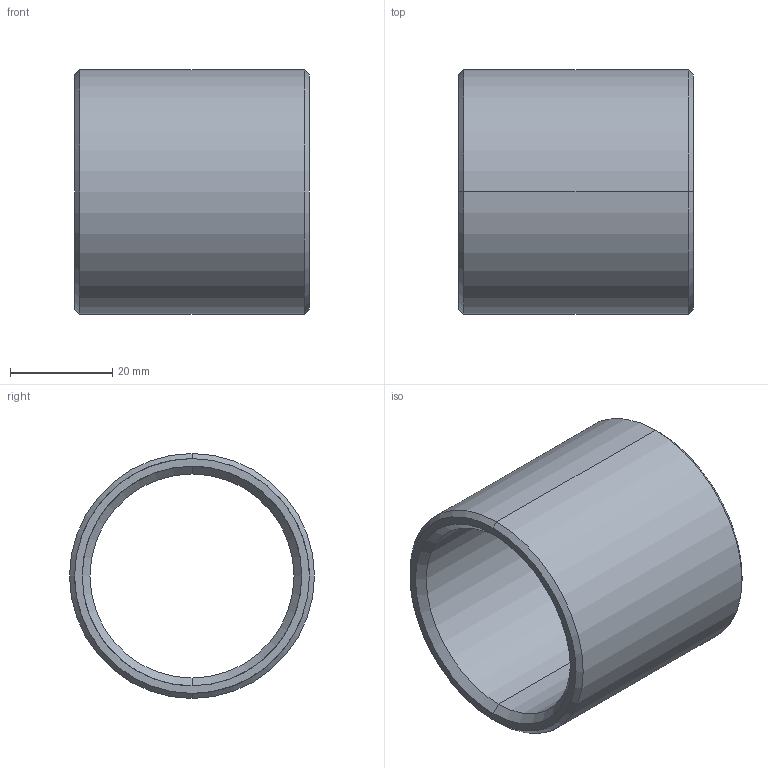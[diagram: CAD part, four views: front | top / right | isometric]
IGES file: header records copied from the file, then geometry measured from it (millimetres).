
Start section: START RECORD GO HERE.
Global section: file name: 352-40X46.igs; native system: DASSAULT SYSTEMES CATIA V5 R20 - www.3ds.com; preprocessor: CATIA Version 5 Release 20 ; author: Utente; organization: NB04-ASUS; date: 20210414.165607; units: millimetre
Bounding box: 46 x 48 x 48 mm (x, y, z)
Surface area: 13482.8 mm2 (no closed solid volume)
Topology: 0 solids, 0 shells, 14 faces, 88 edges, 88 vertices
Faces by surface type: revolution 12, plane 2
